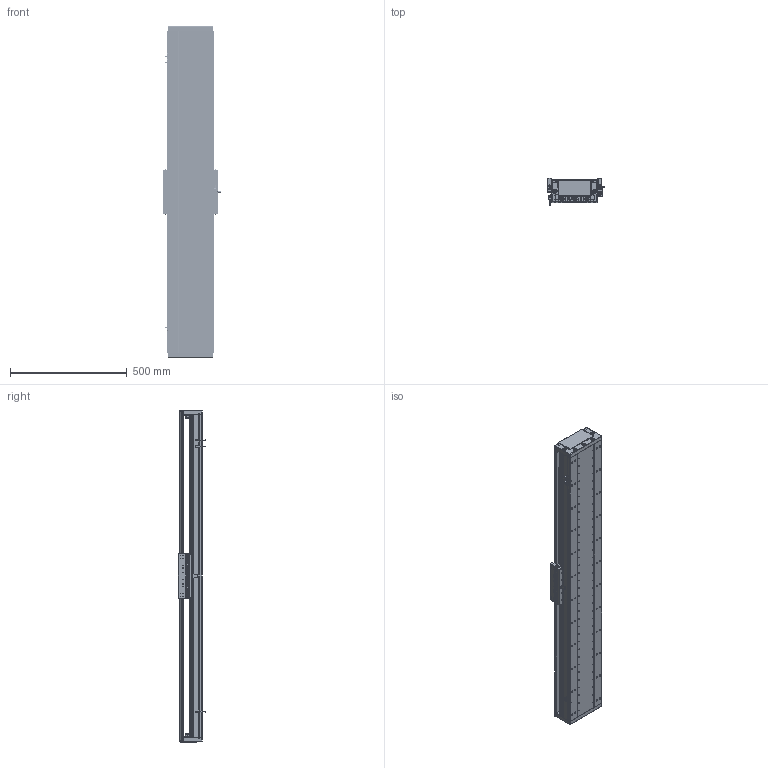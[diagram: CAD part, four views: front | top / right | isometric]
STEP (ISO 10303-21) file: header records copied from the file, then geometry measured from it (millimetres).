
FILE_DESCRIPTION (( 'STEP AP203' ), '1' );
FILE_NAME ('DA-C195-C2-T1140-C010-0.2 眻盄萇儂.STEP', '2025-08-15T01:04:40', ( '' ), ( '' ), 'SwSTEP 2.0', 'SolidWorks 2019', '' );
FILE_SCHEMA (( 'CONFIG_CONTROL_DESIGN' ));
Products named in the file (12): 66156-0001-005-00 光电感应片(默认); IU-CU195-L-00 菁釱(L1380); LMT黍杅芛; MS200 棠掑喜S315-T240; 葩璃 DA95-GT-T-00; 66156-0001-003-00 裔啣; CU195-C2賑輸-俋楷; DA95-HXJ-00 遣喳砎蝶; PM-T45ㄗ侂狟ㄘ; DA-C195-C2-T1140-C010-0.2 眻盄萇儂; DA195-DG-H-00  端盖（压铸镂空版）; IU-CU195-L 菁釱絳寢
Assembly tree (20 placements, depth 3):
  DA-C195-C2-T1140-C010-0.2 眻盄萇儂
    IU-CU195-L 菁釱絳寢
      IU-CU195-L-00 菁釱(L1380)
      葩璃 DA95-GT-T-00  x4
    LMT黍杅芛
    MS200 棠掑喜S315-T240
    PM-T45ㄗ侂狟ㄘ  x3
    66156-0001-005-00 光电感应片(默认)
    DA195-DG-H-00  端盖（压铸镂空版）  x2
    DA95-HXJ-00 遣喳砎蝶  x4
    66156-0001-003-00 裔啣
    CU195-C2賑輸-俋楷
Bounding box: 248 x 115.6 x 1420 mm (x, y, z)
Volume: 9689070.2 mm3; surface area: 2779455.4 mm2
Topology: 58 solids, 130 shells, 5355 faces, 13820 edges, 8425 vertices
Faces by surface type: cylinder 2365, plane 1640, bspline 710, cone 560, torus 44, sphere 36
Entity records: 150645 total; most frequent: CARTESIAN_POINT 47407, ORIENTED_EDGE 21694, DIRECTION 20648, EDGE_CURVE 10847, AXIS2_PLACEMENT_3D 7691, VERTEX_POINT 6855, VECTOR 5266, LINE 5266
